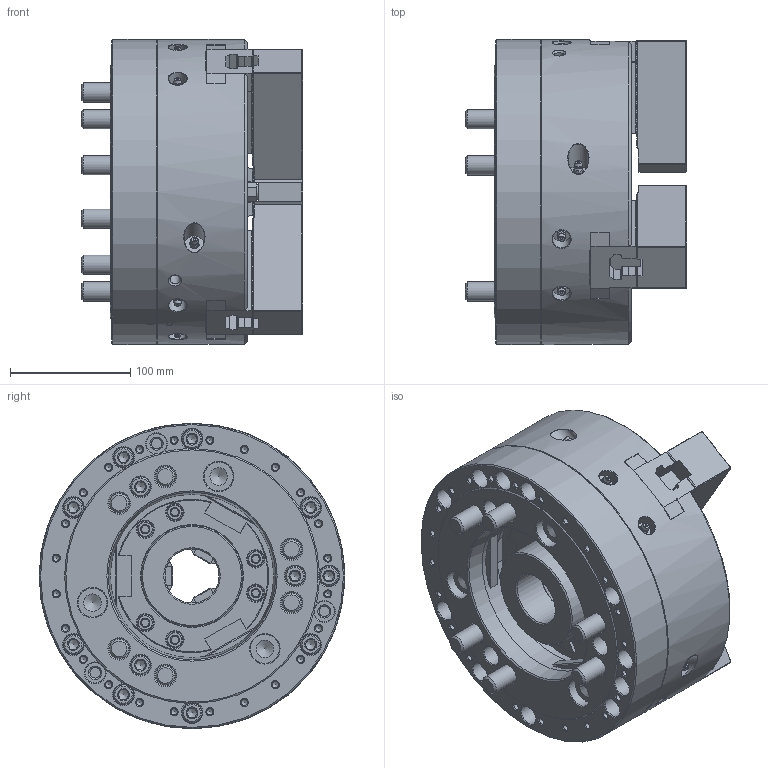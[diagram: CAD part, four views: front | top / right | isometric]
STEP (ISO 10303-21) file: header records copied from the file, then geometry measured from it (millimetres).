
FILE_DESCRIPTION (( 'STEP AP214' ), '1' );
FILE_NAME ('DT1_HOH-10K_OUTSIDE_VIEW_HUL.STEP', '2024-05-09T04:29:06', ( '' ), ( '' ), 'SwSTEP 2.0', 'SolidWorks 2022', '' );
FILE_SCHEMA (( 'AUTOMOTIVE_DESIGN' ));
Length unit declared in the file: millimetre
Products named in the file (9): DT1_HOH-10K_COVER^DT1_HOH-10K_ﾃﾞﾌｫﾙﾄ; DT1_HOH-10K_M12x35^DT1_HOH-10K_ﾃﾞﾌｫﾙﾄ; DT1_HOH-10K_DRAWNUT^DT1_HOH-10K_ﾃﾞﾌｫﾙﾄ; DT1_HOH-10K_M6x12^DT1_HOH-10K_ﾃﾞﾌｫﾙﾄ; DT1_HOH-10K_BASE^DT1_HOH-10K_ﾃﾞﾌｫﾙﾄ; DT1_HOH-10K_M16x120^DT1_HOH-10K_ﾃﾞﾌｫﾙﾄ; DT1_HOH-10K_SOFTJAW^DT1_HOH-10K_ﾃﾞﾌｫﾙﾄ; DT1_HOH-10K_OUTSIDE_VIEW_HUL; DT1_HOH-10K_TNUT^DT1_HOH-10K_ﾃﾞﾌｫﾙﾄ
Assembly tree (24 placements, depth 2):
  DT1_HOH-10K_OUTSIDE_VIEW_HUL
    DT1_HOH-10K_SOFTJAW^DT1_HOH-10K_ﾃﾞﾌｫﾙﾄ  x3
    DT1_HOH-10K_TNUT^DT1_HOH-10K_ﾃﾞﾌｫﾙﾄ  x3
    DT1_HOH-10K_DRAWNUT^DT1_HOH-10K_ﾃﾞﾌｫﾙﾄ
    DT1_HOH-10K_COVER^DT1_HOH-10K_ﾃﾞﾌｫﾙﾄ
    DT1_HOH-10K_BASE^DT1_HOH-10K_ﾃﾞﾌｫﾙﾄ
    DT1_HOH-10K_M6x12^DT1_HOH-10K_ﾃﾞﾌｫﾙﾄ  x3
    DT1_HOH-10K_M12x35^DT1_HOH-10K_ﾃﾞﾌｫﾙﾄ  x6
    DT1_HOH-10K_M16x120^DT1_HOH-10K_ﾃﾞﾌｫﾙﾄ  x6
Bounding box: 184 x 254 x 254 mm (x, y, z)
Volume: 5383802.7 mm3; surface area: 595187.3 mm2
Topology: 24 solids, 30 shells, 4320 faces, 12008 edges, 7876 vertices
Faces by surface type: plane 3173, cylinder 594, cone 374, bspline 131, torus 39, sphere 9
Full cylindrical faces by diameter (mm): 2 x9, 5 x3, 5.2 x24, 6 x3, 6.6 x3, 8.6 x5, 10.2 x6, 10.22 x3, 11 x3, 12 x6, 13 x6, 13.27 x6, 14 x6, 15 x6, 16 x6, 16.27 x12, 17 x30, 18.27 x6, 19 x6, 24.21 x3, 24.33 x6, 25 x6, 45 x1, 65 x2, 70 x2, 76.4 x1, 84.5 x2, 92 x2, 136 x1, 244 x1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
Entity records: 126942 total; most frequent: CARTESIAN_POINT 47681, ORIENTED_EDGE 17262, DIRECTION 14229, EDGE_CURVE 8631, VECTOR 6217, LINE 6217, VERTEX_POINT 5860, AXIS2_PLACEMENT_3D 4006
